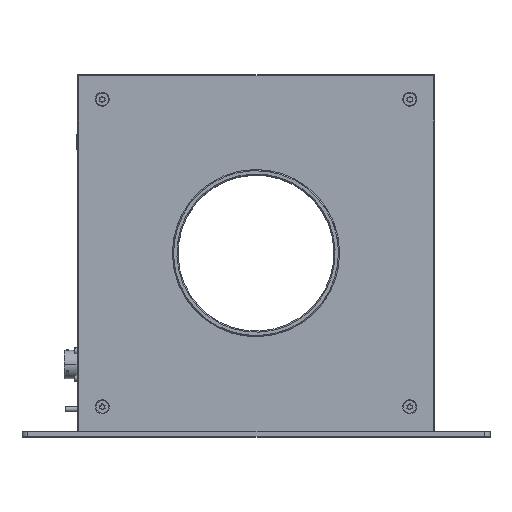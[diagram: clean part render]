
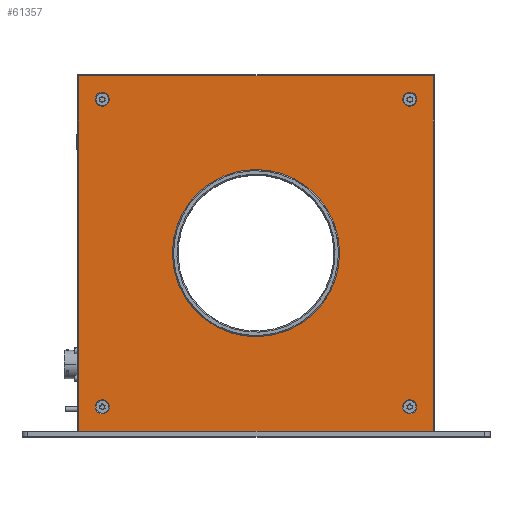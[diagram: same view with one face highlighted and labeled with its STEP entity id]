
A CAD part, top view. The second image highlights one B-rep face of the part: STEP entity #61357.
In plain terms, the highlighted planar face has unit normal (0, 0, 1).
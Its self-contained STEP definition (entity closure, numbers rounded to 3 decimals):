
#1761 = CARTESIAN_POINT ( 'NONE',  ( 8408.058, 165.271, 1495.114 ) ) ;
#2697 = EDGE_CURVE ( 'NONE', #183337, #60280, #30430, .T. ) ;
#5989 = CIRCLE ( 'NONE', #135932, 6.3 ) ;
#6523 = CARTESIAN_POINT ( 'NONE',  ( 8567.058, 165., 1495.114 ) ) ;
#10963 = LINE ( 'NONE', #207456, #132038 ) ;
#13143 = FACE_BOUND ( 'NONE', #198426, .T. ) ;
#14008 = ORIENTED_EDGE ( 'NONE', *, *, #186625, .T. ) ;
#15748 = CIRCLE ( 'NONE', #223622, 6.3 ) ;
#15767 = AXIS2_PLACEMENT_3D ( 'NONE', #208516, #152685, #222493 ) ;
#15913 = VECTOR ( 'NONE', #188722, 1000. ) ;
#17759 = CARTESIAN_POINT ( 'NONE',  ( 8642.058, 165., 1495.114 ) ) ;
#22401 = DIRECTION ( 'NONE',  ( 0., 0., -1. ) ) ;
#26446 = EDGE_CURVE ( 'NONE', #100992, #157014, #195241, .T. ) ;
#27442 = CARTESIAN_POINT ( 'NONE',  ( 8435.358, 303., 1495.114 ) ) ;
#28704 = DIRECTION ( 'NONE',  ( 1., 0., 0. ) ) ;
#29612 = CIRCLE ( 'NONE', #137102, 6.3 ) ;
#30430 = CIRCLE ( 'NONE', #227085, 6.3 ) ;
#31531 = ORIENTED_EDGE ( 'NONE', *, *, #72693, .F. ) ;
#39008 = EDGE_LOOP ( 'NONE', ( #108856, #49370 ) ) ;
#41337 = LINE ( 'NONE', #1761, #190280 ) ;
#41383 = DIRECTION ( 'NONE',  ( 1., 0., 0. ) ) ;
#43773 = DIRECTION ( 'NONE',  ( -1., 0., 0. ) ) ;
#45231 = AXIS2_PLACEMENT_3D ( 'NONE', #205389, #82192, #170496 ) ;
#47373 = VECTOR ( 'NONE', #91970, 1000. ) ;
#48881 = CARTESIAN_POINT ( 'NONE',  ( 8705.058, 27., 1495.114 ) ) ;
#49370 = ORIENTED_EDGE ( 'NONE', *, *, #52369, .F. ) ;
#50765 = CARTESIAN_POINT ( 'NONE',  ( 8726.058, 324., 1495.114 ) ) ;
#51164 = DIRECTION ( 'NONE',  ( 1., 0., 0. ) ) ;
#52369 = EDGE_CURVE ( 'NONE', #161681, #63630, #29612, .T. ) ;
#54134 = ORIENTED_EDGE ( 'NONE', *, *, #72705, .T. ) ;
#56610 = EDGE_CURVE ( 'NONE', #228513, #113309, #10963, .T. ) ;
#58132 = VERTEX_POINT ( 'NONE', #194016 ) ;
#58329 = CARTESIAN_POINT ( 'NONE',  ( 8711.358, 303., 1495.114 ) ) ;
#59453 = CARTESIAN_POINT ( 'NONE',  ( 8726.058, 165.271, 1495.114 ) ) ;
#59927 = VERTEX_POINT ( 'NONE', #58329 ) ;
#60280 = VERTEX_POINT ( 'NONE', #199821 ) ;
#61357 = ADVANCED_FACE ( 'NONE', ( #189893, #13143, #173616, #205084, #100411, #212757 ), #153829, .F. ) ;
#62690 = CARTESIAN_POINT ( 'NONE',  ( 8726.058, 5., 1495.114 ) ) ;
#63566 = VERTEX_POINT ( 'NONE', #114585 ) ;
#63630 = VERTEX_POINT ( 'NONE', #27442 ) ;
#64386 = CIRCLE ( 'NONE', #127259, 6.3 ) ;
#64838 = AXIS2_PLACEMENT_3D ( 'NONE', #48881, #208073, #51164 ) ;
#66001 = ORIENTED_EDGE ( 'NONE', *, *, #176686, .F. ) ;
#66926 = EDGE_LOOP ( 'NONE', ( #130067, #119364, #54134, #216527 ) ) ;
#72693 = EDGE_CURVE ( 'NONE', #60280, #183337, #64386, .T. ) ;
#72705 = EDGE_CURVE ( 'NONE', #152849, #191820, #80712, .T. ) ;
#75213 = CARTESIAN_POINT ( 'NONE',  ( 8705.058, 303., 1495.114 ) ) ;
#77565 = DIRECTION ( 'NONE',  ( 0., 0., -1. ) ) ;
#80311 = CARTESIAN_POINT ( 'NONE',  ( 8492.058, 165., 1495.114 ) ) ;
#80712 = LINE ( 'NONE', #135232, #15913 ) ;
#82192 = DIRECTION ( 'NONE',  ( 0., 0., 1. ) ) ;
#83507 = DIRECTION ( 'NONE',  ( 0., 0., 1. ) ) ;
#86193 = CARTESIAN_POINT ( 'NONE',  ( 8408.058, 324., 1495.114 ) ) ;
#87024 = EDGE_LOOP ( 'NONE', ( #206965, #66001 ) ) ;
#90645 = EDGE_LOOP ( 'NONE', ( #120057, #167478 ) ) ;
#91970 = DIRECTION ( 'NONE',  ( 0., 1., 0. ) ) ;
#93348 = DIRECTION ( 'NONE',  ( -1., 0., 0. ) ) ;
#98692 = AXIS2_PLACEMENT_3D ( 'NONE', #6523, #77565, #43773 ) ;
#99850 = EDGE_CURVE ( 'NONE', #59927, #227368, #145391, .T. ) ;
#100411 = FACE_OUTER_BOUND ( 'NONE', #66926, .T. ) ;
#100992 = VERTEX_POINT ( 'NONE', #17759 ) ;
#108856 = ORIENTED_EDGE ( 'NONE', *, *, #140364, .F. ) ;
#109884 = EDGE_CURVE ( 'NONE', #58132, #63566, #205813, .T. ) ;
#112801 = LINE ( 'NONE', #59453, #47373 ) ;
#113309 = VERTEX_POINT ( 'NONE', #129929 ) ;
#114585 = CARTESIAN_POINT ( 'NONE',  ( 8698.758, 27., 1495.114 ) ) ;
#115865 = CARTESIAN_POINT ( 'NONE',  ( 8429.058, 303., 1495.114 ) ) ;
#117951 = CARTESIAN_POINT ( 'NONE',  ( 8422.758, 303., 1495.114 ) ) ;
#118123 = DIRECTION ( 'NONE',  ( 0., 0., 1. ) ) ;
#118235 = AXIS2_PLACEMENT_3D ( 'NONE', #75213, #145947, #41383 ) ;
#118289 = CARTESIAN_POINT ( 'NONE',  ( 8429.058, 27., 1495.114 ) ) ;
#119364 = ORIENTED_EDGE ( 'NONE', *, *, #145060, .T. ) ;
#120057 = ORIENTED_EDGE ( 'NONE', *, *, #109884, .F. ) ;
#127259 = AXIS2_PLACEMENT_3D ( 'NONE', #154949, #207336, #206187 ) ;
#129929 = CARTESIAN_POINT ( 'NONE',  ( 8408.058, 5., 1495.114 ) ) ;
#130067 = ORIENTED_EDGE ( 'NONE', *, *, #56610, .F. ) ;
#132038 = VECTOR ( 'NONE', #222585, 1000. ) ;
#135232 = CARTESIAN_POINT ( 'NONE',  ( 8567.058, 324., 1495.114 ) ) ;
#135932 = AXIS2_PLACEMENT_3D ( 'NONE', #220538, #118123, #28704 ) ;
#137102 = AXIS2_PLACEMENT_3D ( 'NONE', #209892, #143494, #228500 ) ;
#140364 = EDGE_CURVE ( 'NONE', #63630, #161681, #15748, .T. ) ;
#140471 = CIRCLE ( 'NONE', #118235, 6.3 ) ;
#143494 = DIRECTION ( 'NONE',  ( 0., 0., 1. ) ) ;
#143622 = DIRECTION ( 'NONE',  ( 0., -1., 0. ) ) ;
#145060 = EDGE_CURVE ( 'NONE', #228513, #152849, #112801, .T. ) ;
#145391 = CIRCLE ( 'NONE', #45231, 6.3 ) ;
#145947 = DIRECTION ( 'NONE',  ( 0., 0., 1. ) ) ;
#152685 = DIRECTION ( 'NONE',  ( 0., 0., -1. ) ) ;
#152849 = VERTEX_POINT ( 'NONE', #50765 ) ;
#153623 = EDGE_CURVE ( 'NONE', #63566, #58132, #5989, .T. ) ;
#153829 = PLANE ( 'NONE',  #15767 ) ;
#154949 = CARTESIAN_POINT ( 'NONE',  ( 8429.058, 27., 1495.114 ) ) ;
#155476 = DIRECTION ( 'NONE',  ( 1., 0., 0. ) ) ;
#157014 = VERTEX_POINT ( 'NONE', #80311 ) ;
#161681 = VERTEX_POINT ( 'NONE', #117951 ) ;
#165503 = CIRCLE ( 'NONE', #98692, 75. ) ;
#167478 = ORIENTED_EDGE ( 'NONE', *, *, #153623, .F. ) ;
#170496 = DIRECTION ( 'NONE',  ( 1., 0., 0. ) ) ;
#173616 = FACE_BOUND ( 'NONE', #90645, .T. ) ;
#176686 = EDGE_CURVE ( 'NONE', #227368, #59927, #140471, .T. ) ;
#177053 = ORIENTED_EDGE ( 'NONE', *, *, #26446, .T. ) ;
#178628 = CARTESIAN_POINT ( 'NONE',  ( 8698.758, 303., 1495.114 ) ) ;
#183337 = VERTEX_POINT ( 'NONE', #203565 ) ;
#183832 = ORIENTED_EDGE ( 'NONE', *, *, #2697, .F. ) ;
#186625 = EDGE_CURVE ( 'NONE', #157014, #100992, #165503, .T. ) ;
#186806 = DIRECTION ( 'NONE',  ( 0., 0., 1. ) ) ;
#188722 = DIRECTION ( 'NONE',  ( -1., 0., 0. ) ) ;
#189893 = FACE_BOUND ( 'NONE', #39008, .T. ) ;
#190280 = VECTOR ( 'NONE', #143622, 1000. ) ;
#191820 = VERTEX_POINT ( 'NONE', #86193 ) ;
#193401 = EDGE_CURVE ( 'NONE', #191820, #113309, #41337, .T. ) ;
#194016 = CARTESIAN_POINT ( 'NONE',  ( 8711.358, 27., 1495.114 ) ) ;
#195241 = CIRCLE ( 'NONE', #225017, 75. ) ;
#198426 = EDGE_LOOP ( 'NONE', ( #183832, #31531 ) ) ;
#199130 = CARTESIAN_POINT ( 'NONE',  ( 8567.058, 165., 1495.114 ) ) ;
#199821 = CARTESIAN_POINT ( 'NONE',  ( 8422.758, 27., 1495.114 ) ) ;
#203565 = CARTESIAN_POINT ( 'NONE',  ( 8435.358, 27., 1495.114 ) ) ;
#205084 = FACE_BOUND ( 'NONE', #87024, .T. ) ;
#205389 = CARTESIAN_POINT ( 'NONE',  ( 8705.058, 303., 1495.114 ) ) ;
#205813 = CIRCLE ( 'NONE', #64838, 6.3 ) ;
#206187 = DIRECTION ( 'NONE',  ( 1., 0., 0. ) ) ;
#206965 = ORIENTED_EDGE ( 'NONE', *, *, #99850, .F. ) ;
#207336 = DIRECTION ( 'NONE',  ( 0., 0., 1. ) ) ;
#207456 = CARTESIAN_POINT ( 'NONE',  ( 8727.058, 5., 1495.114 ) ) ;
#208073 = DIRECTION ( 'NONE',  ( 0., 0., 1. ) ) ;
#208516 = CARTESIAN_POINT ( 'NONE',  ( 8567.058, 165.271, 1495.114 ) ) ;
#208867 = DIRECTION ( 'NONE',  ( 1., 0., 0. ) ) ;
#209892 = CARTESIAN_POINT ( 'NONE',  ( 8429.058, 303., 1495.114 ) ) ;
#212757 = FACE_BOUND ( 'NONE', #214448, .T. ) ;
#214448 = EDGE_LOOP ( 'NONE', ( #14008, #177053 ) ) ;
#216527 = ORIENTED_EDGE ( 'NONE', *, *, #193401, .T. ) ;
#220538 = CARTESIAN_POINT ( 'NONE',  ( 8705.058, 27., 1495.114 ) ) ;
#222493 = DIRECTION ( 'NONE',  ( -1., 0., 0. ) ) ;
#222585 = DIRECTION ( 'NONE',  ( -1., 0., 0. ) ) ;
#223622 = AXIS2_PLACEMENT_3D ( 'NONE', #115865, #186806, #208867 ) ;
#225017 = AXIS2_PLACEMENT_3D ( 'NONE', #199130, #22401, #93348 ) ;
#227085 = AXIS2_PLACEMENT_3D ( 'NONE', #118289, #83507, #155476 ) ;
#227368 = VERTEX_POINT ( 'NONE', #178628 ) ;
#228500 = DIRECTION ( 'NONE',  ( 1., 0., 0. ) ) ;
#228513 = VERTEX_POINT ( 'NONE', #62690 ) ;
